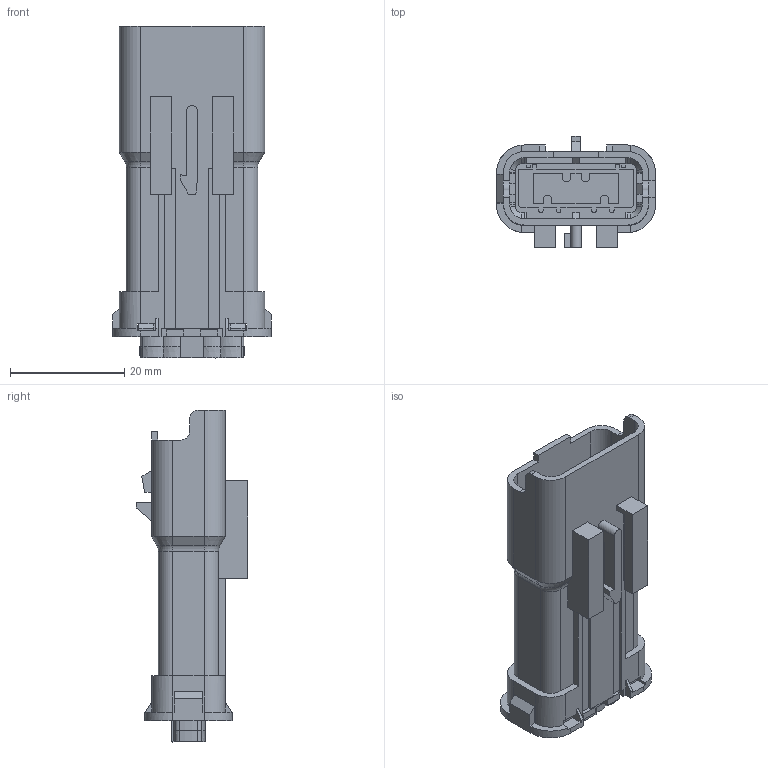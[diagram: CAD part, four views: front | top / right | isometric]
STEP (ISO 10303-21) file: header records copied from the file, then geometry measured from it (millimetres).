
FILE_DESCRIPTION(/* description */ (''),/* implementation_level */ '2;1');
FILE_NAME(/* name */ '33511737_ENV10_01.stp',/* time_stamp */ '2020-07-09T21:46:05+05:00',/* author */ (''),/* organization */ (''),/* preprocessor_version */ 'ST-DEVELOPER v16',/* originating_system */ 'SIEMENS PLM Software NX 11.0',/* authorisation */ '');
FILE_SCHEMA (('AP203_CONFIGURATION_CONTROLLED_3D_DESIGN_OF_MECHANICAL_PARTS_AND_ASSEMBLIES_MIM_LF { 1 0 10303 403 2 1 2}'));
Length unit declared in the file: millimetre
Products named in the file (1): qzs53380227A7lbb
Bounding box: 27.8 x 19.55 x 58.05 mm (x, y, z)
Volume: 11105.4 mm3; surface area: 7394.9 mm2
Topology: 1 solids, 1 shells, 440 faces, 1266 edges, 822 vertices
Faces by surface type: plane 336, cylinder 77, cone 19, bspline 4, torus 4
Entity records: 14977 total; most frequent: CARTESIAN_POINT 3215, ORIENTED_EDGE 2532, DIRECTION 2317, EDGE_CURVE 1266, LINE 1029, VECTOR 1029, VERTEX_POINT 822, AXIS2_PLACEMENT_3D 644
